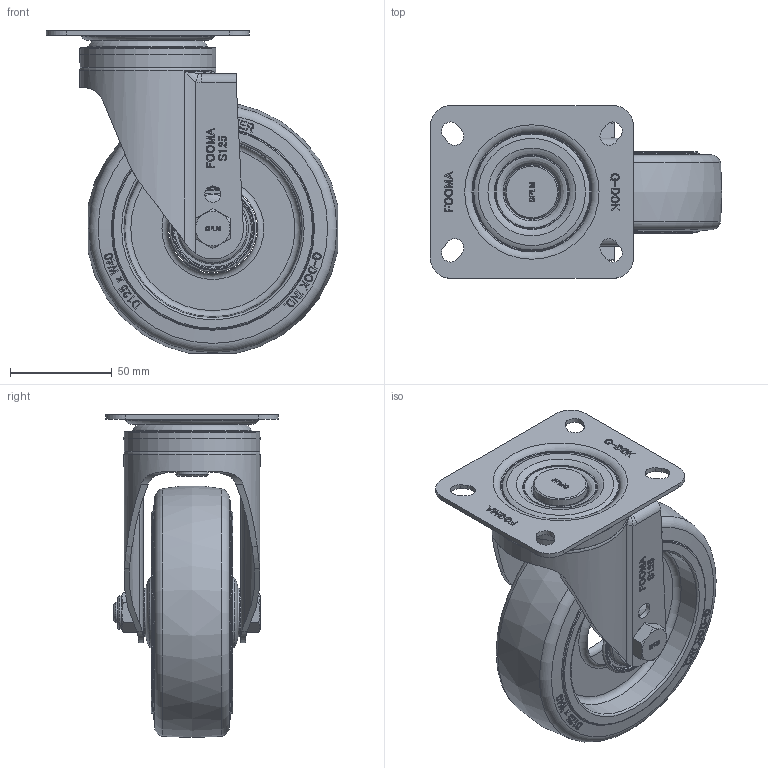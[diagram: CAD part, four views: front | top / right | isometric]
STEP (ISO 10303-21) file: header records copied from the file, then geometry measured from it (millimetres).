
FILE_DESCRIPTION(/* description */ (''),/* implementation_level */ '2;1');
FILE_NAME(/* name */ '\\192.168.10.38\지덕공유\1.기술연구소\2.연구개발 진행중\98.스테인레스캐스터 개발건_2023.10.26\제품설계\3D\홈페이지용\SPLM-125-ASF-HRD-PEU.stp',/* time_stamp */ '2025-02-20T07:38:32+09:00',/* author */ ('admin'),/* organization */ ('지덕산업'),/* preprocessor_version */ 'ST-DEVELOPER v18.1',/* originating_system */ 'Autodesk Inventor 2021',/* authorisation */ '');
FILE_SCHEMA (('CONFIG_CONTROL_DESIGN'));
Products named in the file (1): SPLM-125-ASF-HRD-PEU
Bounding box: 143.46 x 85 x 158.96 mm (x, y, z)
Volume: 456947.7 mm3; surface area: 95730.4 mm2
Topology: 1 solids, 1 shells, 1399 faces, 3733 edges, 2432 vertices
Faces by surface type: plane 614, bspline 480, cylinder 116, cone 109, torus 72, sphere 8
Full cylindrical faces by diameter (mm): 8 x2, 10 x1, 11 x1, 16 x2, 16.5 x1, 26.6 x1, 30 x1, 40.105 x1, 40.971 x1, 54 x1, 67 x1
Entity records: 47868 total; most frequent: CARTESIAN_POINT 17528, ORIENTED_EDGE 7442, DIRECTION 4513, EDGE_CURVE 3721, VERTEX_POINT 2432, LINE 1689, VECTOR 1689, EDGE_LOOP 1521
